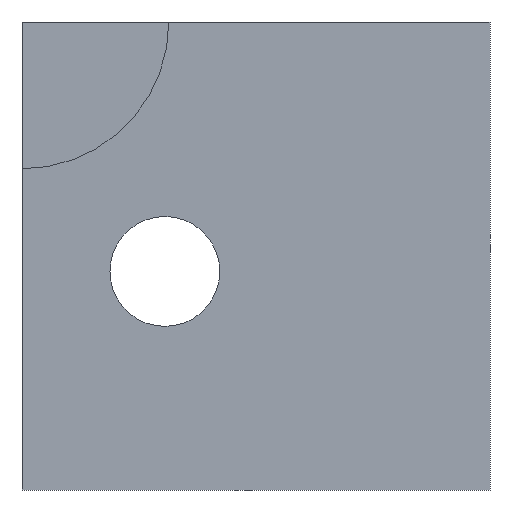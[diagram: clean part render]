
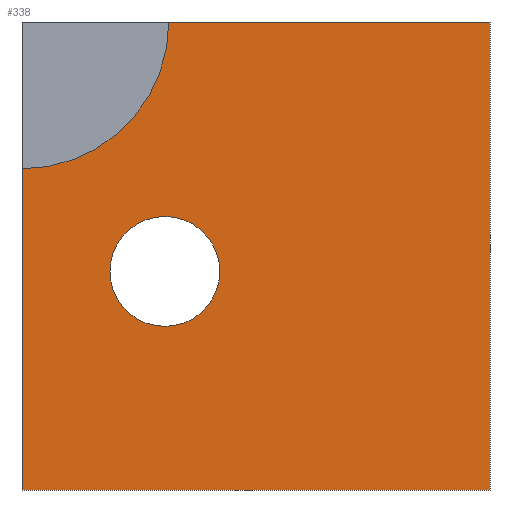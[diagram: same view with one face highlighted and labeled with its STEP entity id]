
A CAD part, front view. The second image highlights one B-rep face of the part: STEP entity #338.
In plain terms, the highlighted planar face has unit normal (0, -1, 0).
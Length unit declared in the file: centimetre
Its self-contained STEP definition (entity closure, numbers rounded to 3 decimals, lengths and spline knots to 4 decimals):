
#2 = ORIENTED_EDGE ( 'NONE', *, *, #242, .T. ) ;
#3 = LINE ( 'NONE', #52, #67 ) ;
#6 = EDGE_CURVE ( 'NONE', #54, #43, #3, .T. ) ;
#21 = DIRECTION ( 'NONE',  ( 0., 0., 1. ) ) ;
#26 = CARTESIAN_POINT ( 'NONE',  ( 1000., 0., 1000. ) ) ;
#27 = VERTEX_POINT ( 'NONE', #221 ) ;
#39 = AXIS2_PLACEMENT_3D ( 'NONE', #240, #91, #117 ) ;
#43 = VERTEX_POINT ( 'NONE', #175 ) ;
#48 = DIRECTION ( 'NONE',  ( 0., -1., 0. ) ) ;
#52 = CARTESIAN_POINT ( 'NONE',  ( 0., 0., 1000. ) ) ;
#54 = VERTEX_POINT ( 'NONE', #114 ) ;
#56 = VERTEX_POINT ( 'NONE', #75 ) ;
#67 = VECTOR ( 'NONE', #204, 100. ) ;
#72 = CIRCLE ( 'NONE', #371, 313.6746 ) ;
#75 = CARTESIAN_POINT ( 'NONE',  ( 305.1854, 0., 584.3488 ) ) ;
#80 = ORIENTED_EDGE ( 'NONE', *, *, #333, .F. ) ;
#91 = DIRECTION ( 'NONE',  ( 0., 1., 0. ) ) ;
#97 = VECTOR ( 'NONE', #233, 100. ) ;
#107 = LINE ( 'NONE', #227, #97 ) ;
#109 = VERTEX_POINT ( 'NONE', #342 ) ;
#111 = DIRECTION ( 'NONE',  ( 0., 0., 1. ) ) ;
#113 = EDGE_LOOP ( 'NONE', ( #126, #127 ) ) ;
#114 = CARTESIAN_POINT ( 'NONE',  ( 0., 0., 686.3254 ) ) ;
#117 = DIRECTION ( 'NONE',  ( 0., 0., 1. ) ) ;
#123 = AXIS2_PLACEMENT_3D ( 'NONE', #319, #355, #111 ) ;
#126 = ORIENTED_EDGE ( 'NONE', *, *, #170, .T. ) ;
#127 = ORIENTED_EDGE ( 'NONE', *, *, #239, .T. ) ;
#146 = EDGE_CURVE ( 'NONE', #109, #354, #107, .T. ) ;
#155 = CIRCLE ( 'NONE', #330, 117.3473 ) ;
#168 = DIRECTION ( 'NONE',  ( 0., 0., -1. ) ) ;
#170 = EDGE_CURVE ( 'NONE', #56, #245, #300, .T. ) ;
#174 = ORIENTED_EDGE ( 'NONE', *, *, #6, .T. ) ;
#175 = CARTESIAN_POINT ( 'NONE',  ( 0., 0., 0. ) ) ;
#183 = FACE_OUTER_BOUND ( 'NONE', #336, .T. ) ;
#201 = ORIENTED_EDGE ( 'NONE', *, *, #146, .F. ) ;
#204 = DIRECTION ( 'NONE',  ( 0., 0., -1. ) ) ;
#212 = DIRECTION ( 'NONE',  ( 0., 0., -1. ) ) ;
#221 = CARTESIAN_POINT ( 'NONE',  ( 1000., 0., 0. ) ) ;
#226 = DIRECTION ( 'NONE',  ( 0., 1., 0. ) ) ;
#227 = CARTESIAN_POINT ( 'NONE',  ( 0., 0., 1000. ) ) ;
#228 = CARTESIAN_POINT ( 'NONE',  ( 305.1854, 0., 467.0015 ) ) ;
#233 = DIRECTION ( 'NONE',  ( 1., 0., 0. ) ) ;
#239 = EDGE_CURVE ( 'NONE', #245, #56, #155, .T. ) ;
#240 = CARTESIAN_POINT ( 'NONE',  ( 0., 0., 1000. ) ) ;
#242 = EDGE_CURVE ( 'NONE', #43, #27, #291, .T. ) ;
#245 = VERTEX_POINT ( 'NONE', #350 ) ;
#251 = CARTESIAN_POINT ( 'NONE',  ( 0., 0., 0. ) ) ;
#263 = CARTESIAN_POINT ( 'NONE',  ( 1000., 0., 1000. ) ) ;
#280 = VECTOR ( 'NONE', #212, 100. ) ;
#281 = LINE ( 'NONE', #26, #280 ) ;
#291 = LINE ( 'NONE', #251, #367 ) ;
#300 = CIRCLE ( 'NONE', #123, 117.3473 ) ;
#313 = CARTESIAN_POINT ( 'NONE',  ( 0., 0., 1000. ) ) ;
#319 = CARTESIAN_POINT ( 'NONE',  ( 305.1854, 0., 467.0015 ) ) ;
#327 = PLANE ( 'NONE',  #39 ) ;
#330 = AXIS2_PLACEMENT_3D ( 'NONE', #228, #226, #21 ) ;
#331 = EDGE_CURVE ( 'NONE', #54, #109, #72, .T. ) ;
#333 = EDGE_CURVE ( 'NONE', #354, #27, #281, .T. ) ;
#336 = EDGE_LOOP ( 'NONE', ( #201, #344, #174, #2, #80 ) ) ;
#338 = ADVANCED_FACE ( 'NONE', ( #356, #183 ), #327, .F. ) ;
#342 = CARTESIAN_POINT ( 'NONE',  ( 313.6746, 0., 1000. ) ) ;
#344 = ORIENTED_EDGE ( 'NONE', *, *, #331, .F. ) ;
#350 = CARTESIAN_POINT ( 'NONE',  ( 305.1854, 0., 349.6542 ) ) ;
#353 = DIRECTION ( 'NONE',  ( 1., 0., 0. ) ) ;
#354 = VERTEX_POINT ( 'NONE', #263 ) ;
#355 = DIRECTION ( 'NONE',  ( 0., 1., 0. ) ) ;
#356 = FACE_BOUND ( 'NONE', #113, .T. ) ;
#367 = VECTOR ( 'NONE', #353, 100. ) ;
#371 = AXIS2_PLACEMENT_3D ( 'NONE', #313, #48, #168 ) ;
